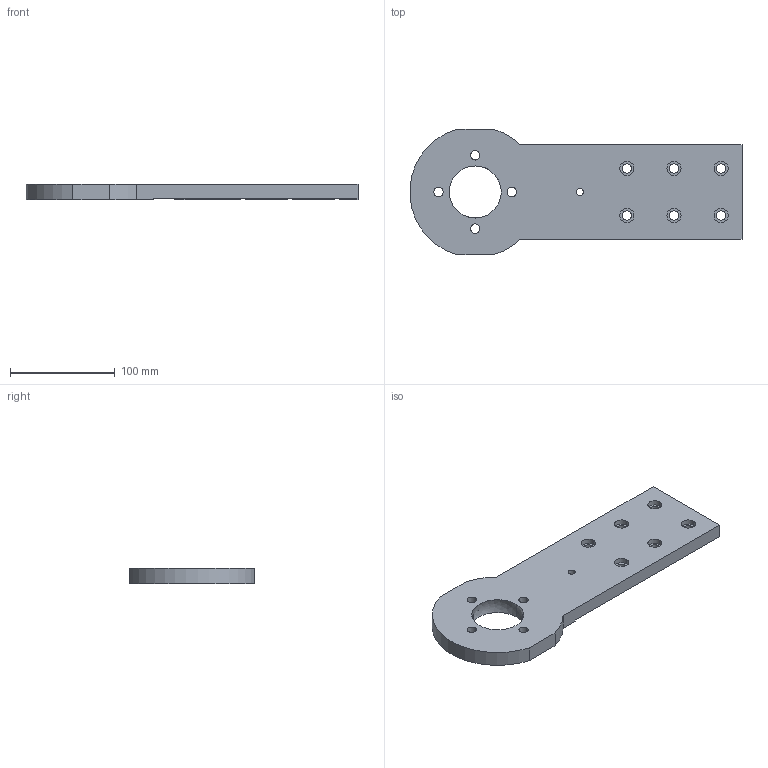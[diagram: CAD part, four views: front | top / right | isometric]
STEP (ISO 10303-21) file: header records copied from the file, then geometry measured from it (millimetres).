
FILE_DESCRIPTION (( 'STEP AP203' ), '1' );
FILE_NAME ('084.808.001.STEP', '2013-01-29T13:54:04', ( 'Alusic' ), ( 'Alusic' ), 'SwSTEP 2.0', 'SolidWorks 2011', '' );
FILE_SCHEMA (( 'CONFIG_CONTROL_DESIGN' ));
Length unit declared in the file: millimetre
Products named in the file (1): 084.808.001
Bounding box: 317.27 x 120 x 15 mm (x, y, z)
Volume: 382486.9 mm3; surface area: 74463.1 mm2
Topology: 1 solids, 1 shells, 102 faces, 295 edges, 193 vertices
Faces by surface type: plane 49, cylinder 42, cone 8, sphere 3
Entity records: 3474 total; most frequent: DIRECTION 623, CARTESIAN_POINT 581, ORIENTED_EDGE 578, EDGE_CURVE 289, AXIS2_PLACEMENT_3D 232, VERTEX_POINT 190, VECTOR 159, LINE 159
